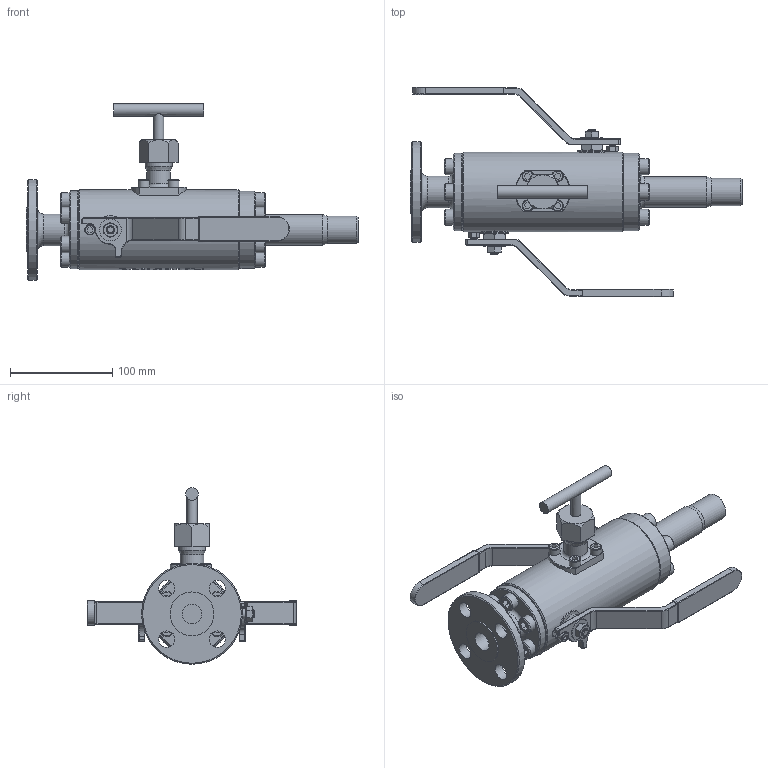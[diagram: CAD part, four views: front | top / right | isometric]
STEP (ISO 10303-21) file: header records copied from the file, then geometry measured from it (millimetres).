
FILE_DESCRIPTION(/* description */ (''),/* implementation_level */ '2;1');
FILE_NAME(/* name */ 'C:\Users\pc\Desktop\TFED-¾-150-PT-RFxPL-PALANCA.stp',/* time_stamp */ '2022-08-21T18:14:37-03:00',/* author */ ('pc'),/* organization */ (''),/* preprocessor_version */ 'ST-DEVELOPER v18',/* originating_system */ 'Autodesk Inventor 2020',/* authorisation */ '');
FILE_SCHEMA (('AUTOMOTIVE_DESIGN { 1 0 10303 214 3 1 1 }'));
Length unit declared in the file: millimetre
Products named in the file (2): TFED-¾-150-PT-RFxPL-PALANCA; TFED-¾-150-PT-RFxPL-PALANCA_1
Assembly tree (1 placements, depth 2):
  TFED-¾-150-PT-RFxPL-PALANCA
    TFED-¾-150-PT-RFxPL-PALANCA_1
Bounding box: 324.16 x 204.29 x 172.4 mm (x, y, z)
Volume: 1116886.1 mm3; surface area: 157436.3 mm2
Topology: 1 solids, 25 shells, 940 faces, 2565 edges, 1685 vertices
Faces by surface type: plane 367, cone 282, cylinder 213, torus 46, bspline 30, sphere 2
Full cylindrical faces by diameter (mm): 2.668 x1, 5.968 x4, 7.04 x4, 7.878 x24, 7.957 x2, 9.823 x1, 9.947 x2, 11.264 x4, 12.157 x1, 12.891 x2, 15.5 x1, 16 x16, 19 x1, 21.485 x2, 23.1 x1, 26.4 x1, 26.7 x1, 30 x1, 31 x1, 38 x1, 42.9 x1, 75.5 x1, 76 x1, 78 x1, 98.4 x1
Entity records: 35416 total; most frequent: CARTESIAN_POINT 11873, ORIENTED_EDGE 5126, DIRECTION 4793, EDGE_CURVE 2563, AXIS2_PLACEMENT_3D 1837, VERTEX_POINT 1685, LINE 1119, VECTOR 1119
